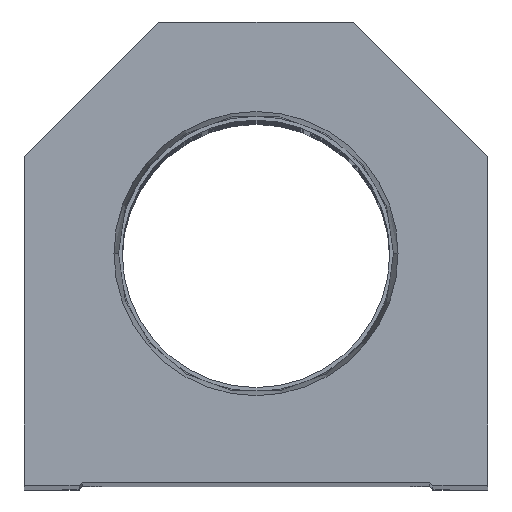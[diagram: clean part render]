
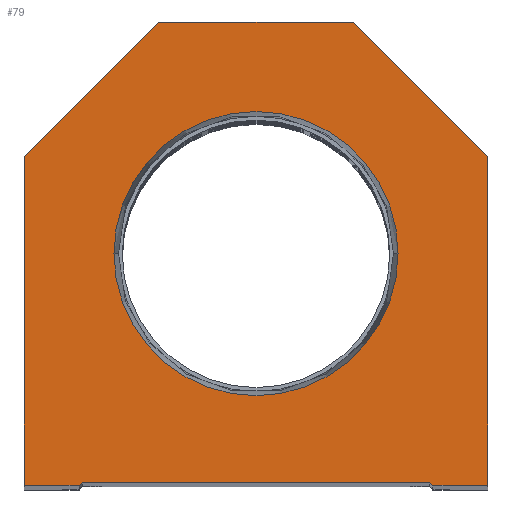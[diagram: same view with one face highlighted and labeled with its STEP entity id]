
A CAD part, top view. The second image highlights one B-rep face of the part: STEP entity #79.
In plain terms, the highlighted planar face has unit normal (0, 0, 1).
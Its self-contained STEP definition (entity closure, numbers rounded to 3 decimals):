
#79 = ADVANCED_FACE ( 'NONE', ( #8918, #19346 ), #6867, .T. ) ;
#89 = ORIENTED_EDGE ( 'NONE', *, *, #4521, .F. ) ;
#296 = DIRECTION ( 'NONE',  ( 0., 1., 0. ) ) ;
#385 = VERTEX_POINT ( 'NONE', #1339 ) ;
#513 = LINE ( 'NONE', #7023, #5082 ) ;
#859 = VERTEX_POINT ( 'NONE', #24303 ) ;
#868 = CARTESIAN_POINT ( 'NONE',  ( 0., 0., 0. ) ) ;
#929 = DIRECTION ( 'NONE',  ( 1., 0., 0. ) ) ;
#1001 = DIRECTION ( 'NONE',  ( -0.707, 0.707, 0. ) ) ;
#1339 = CARTESIAN_POINT ( 'NONE',  ( -23.374, 38.1, 0. ) ) ;
#1560 = VECTOR ( 'NONE', #7255, 1000. ) ;
#1576 = VECTOR ( 'NONE', #1001, 1000. ) ;
#2453 = LINE ( 'NONE', #16561, #18151 ) ;
#2591 = ORIENTED_EDGE ( 'NONE', *, *, #24186, .T. ) ;
#2802 = EDGE_CURVE ( 'NONE', #13207, #385, #10390, .T. ) ;
#3099 = CARTESIAN_POINT ( 'NONE',  ( 0., 38.1, 0. ) ) ;
#3295 = LINE ( 'NONE', #23623, #17038 ) ;
#3354 = ORIENTED_EDGE ( 'NONE', *, *, #11363, .T. ) ;
#3426 = VERTEX_POINT ( 'NONE', #15221 ) ;
#3699 = VECTOR ( 'NONE', #8362, 1000. ) ;
#3911 = ORIENTED_EDGE ( 'NONE', *, *, #20542, .T. ) ;
#4218 = CARTESIAN_POINT ( 'NONE',  ( -28.6, 0., 0. ) ) ;
#4521 = EDGE_CURVE ( 'NONE', #385, #13207, #19550, .T. ) ;
#4677 = DIRECTION ( 'NONE',  ( 0., 0., 1. ) ) ;
#5082 = VECTOR ( 'NONE', #19524, 1000. ) ;
#5164 = CARTESIAN_POINT ( 'NONE',  ( 38.1, 0., 0. ) ) ;
#5668 = VERTEX_POINT ( 'NONE', #12560 ) ;
#5718 = CARTESIAN_POINT ( 'NONE',  ( 38.1, 54.1, 0. ) ) ;
#6172 = LINE ( 'NONE', #19076, #3699 ) ;
#6621 = CARTESIAN_POINT ( 'NONE',  ( -38.1, 0., 0. ) ) ;
#6867 = PLANE ( 'NONE',  #8603 ) ;
#7023 = CARTESIAN_POINT ( 'NONE',  ( -28.6, 0.5, 0. ) ) ;
#7255 = DIRECTION ( 'NONE',  ( 0.707, 0.707, 0. ) ) ;
#7284 = CARTESIAN_POINT ( 'NONE',  ( -38.1, 54.1, 0. ) ) ;
#8062 = ORIENTED_EDGE ( 'NONE', *, *, #11689, .T. ) ;
#8271 = AXIS2_PLACEMENT_3D ( 'NONE', #3099, #11305, #929 ) ;
#8362 = DIRECTION ( 'NONE',  ( -0.707, -0.707, 0. ) ) ;
#8489 = CARTESIAN_POINT ( 'NONE',  ( 29.1, 0., 0. ) ) ;
#8603 = AXIS2_PLACEMENT_3D ( 'NONE', #868, #4677, #14863 ) ;
#8918 = FACE_BOUND ( 'NONE', #10740, .T. ) ;
#9046 = EDGE_CURVE ( 'NONE', #9952, #17171, #3295, .T. ) ;
#9843 = CARTESIAN_POINT ( 'NONE',  ( 28.6, 0., 0. ) ) ;
#9921 = ORIENTED_EDGE ( 'NONE', *, *, #26742, .T. ) ;
#9952 = VERTEX_POINT ( 'NONE', #7284 ) ;
#10390 = CIRCLE ( 'NONE', #12549, 23.374 ) ;
#10533 = CARTESIAN_POINT ( 'NONE',  ( 23.374, 38.1, 0. ) ) ;
#10740 = EDGE_LOOP ( 'NONE', ( #12682, #89 ) ) ;
#10748 = EDGE_LOOP ( 'NONE', ( #2591, #3354, #20062, #3911, #8062, #24817, #18015, #9921, #12958, #23200 ) ) ;
#10855 = VECTOR ( 'NONE', #296, 1000. ) ;
#11305 = DIRECTION ( 'NONE',  ( 0., 0., 1. ) ) ;
#11363 = EDGE_CURVE ( 'NONE', #18829, #3426, #25959, .T. ) ;
#11689 = EDGE_CURVE ( 'NONE', #18681, #24327, #26589, .T. ) ;
#11753 = CARTESIAN_POINT ( 'NONE',  ( -29.1, 0., 0. ) ) ;
#12549 = AXIS2_PLACEMENT_3D ( 'NONE', #25593, #19408, #19004 ) ;
#12560 = CARTESIAN_POINT ( 'NONE',  ( 16., 76.2, 0. ) ) ;
#12682 = ORIENTED_EDGE ( 'NONE', *, *, #2802, .F. ) ;
#12813 = LINE ( 'NONE', #4218, #21998 ) ;
#12958 = ORIENTED_EDGE ( 'NONE', *, *, #16436, .T. ) ;
#13207 = VERTEX_POINT ( 'NONE', #10533 ) ;
#13527 = LINE ( 'NONE', #19612, #1576 ) ;
#14498 = CARTESIAN_POINT ( 'NONE',  ( 14.55, 14.55, 0. ) ) ;
#14609 = VECTOR ( 'NONE', #24542, 1000. ) ;
#14809 = CARTESIAN_POINT ( 'NONE',  ( 38.1, 0., 0. ) ) ;
#14863 = DIRECTION ( 'NONE',  ( 1., 0., 0. ) ) ;
#15221 = CARTESIAN_POINT ( 'NONE',  ( -28.6, 0.5, 0. ) ) ;
#16018 = VERTEX_POINT ( 'NONE', #5718 ) ;
#16436 = EDGE_CURVE ( 'NONE', #859, #9952, #6172, .T. ) ;
#16561 = CARTESIAN_POINT ( 'NONE',  ( 16., 76.2, 0. ) ) ;
#17038 = VECTOR ( 'NONE', #17270, 1000. ) ;
#17171 = VERTEX_POINT ( 'NONE', #6621 ) ;
#17270 = DIRECTION ( 'NONE',  ( 0., -1., 0. ) ) ;
#17332 = CARTESIAN_POINT ( 'NONE',  ( 28.6, 0.5, 0. ) ) ;
#18015 = ORIENTED_EDGE ( 'NONE', *, *, #24754, .T. ) ;
#18151 = VECTOR ( 'NONE', #24801, 1000. ) ;
#18476 = VECTOR ( 'NONE', #20738, 1000. ) ;
#18566 = LINE ( 'NONE', #14498, #18476 ) ;
#18681 = VERTEX_POINT ( 'NONE', #8489 ) ;
#18744 = LINE ( 'NONE', #14809, #10855 ) ;
#18829 = VERTEX_POINT ( 'NONE', #11753 ) ;
#19004 = DIRECTION ( 'NONE',  ( 1., 0., 0. ) ) ;
#19076 = CARTESIAN_POINT ( 'NONE',  ( -38.1, 54.1, 0. ) ) ;
#19346 = FACE_OUTER_BOUND ( 'NONE', #10748, .T. ) ;
#19408 = DIRECTION ( 'NONE',  ( 0., 0., 1. ) ) ;
#19488 = CARTESIAN_POINT ( 'NONE',  ( -14.55, 14.55, 0. ) ) ;
#19524 = DIRECTION ( 'NONE',  ( 1., 0., 0. ) ) ;
#19550 = CIRCLE ( 'NONE', #8271, 23.374 ) ;
#19612 = CARTESIAN_POINT ( 'NONE',  ( 38.1, 54.1, 0. ) ) ;
#20062 = ORIENTED_EDGE ( 'NONE', *, *, #23808, .T. ) ;
#20542 = EDGE_CURVE ( 'NONE', #22176, #18681, #18566, .T. ) ;
#20738 = DIRECTION ( 'NONE',  ( 0.707, -0.707, 0. ) ) ;
#21314 = DIRECTION ( 'NONE',  ( 1., 0., 0. ) ) ;
#21998 = VECTOR ( 'NONE', #21314, 1000. ) ;
#22176 = VERTEX_POINT ( 'NONE', #17332 ) ;
#23200 = ORIENTED_EDGE ( 'NONE', *, *, #9046, .T. ) ;
#23623 = CARTESIAN_POINT ( 'NONE',  ( -38.1, 0., 0. ) ) ;
#23808 = EDGE_CURVE ( 'NONE', #3426, #22176, #513, .T. ) ;
#24186 = EDGE_CURVE ( 'NONE', #17171, #18829, #12813, .T. ) ;
#24303 = CARTESIAN_POINT ( 'NONE',  ( -16., 76.2, 0. ) ) ;
#24327 = VERTEX_POINT ( 'NONE', #5164 ) ;
#24542 = DIRECTION ( 'NONE',  ( 1., 0., 0. ) ) ;
#24754 = EDGE_CURVE ( 'NONE', #16018, #5668, #13527, .T. ) ;
#24801 = DIRECTION ( 'NONE',  ( -1., 0., 0. ) ) ;
#24817 = ORIENTED_EDGE ( 'NONE', *, *, #26710, .T. ) ;
#25593 = CARTESIAN_POINT ( 'NONE',  ( 0., 38.1, 0. ) ) ;
#25959 = LINE ( 'NONE', #19488, #1560 ) ;
#26589 = LINE ( 'NONE', #9843, #14609 ) ;
#26710 = EDGE_CURVE ( 'NONE', #24327, #16018, #18744, .T. ) ;
#26742 = EDGE_CURVE ( 'NONE', #5668, #859, #2453, .T. ) ;
